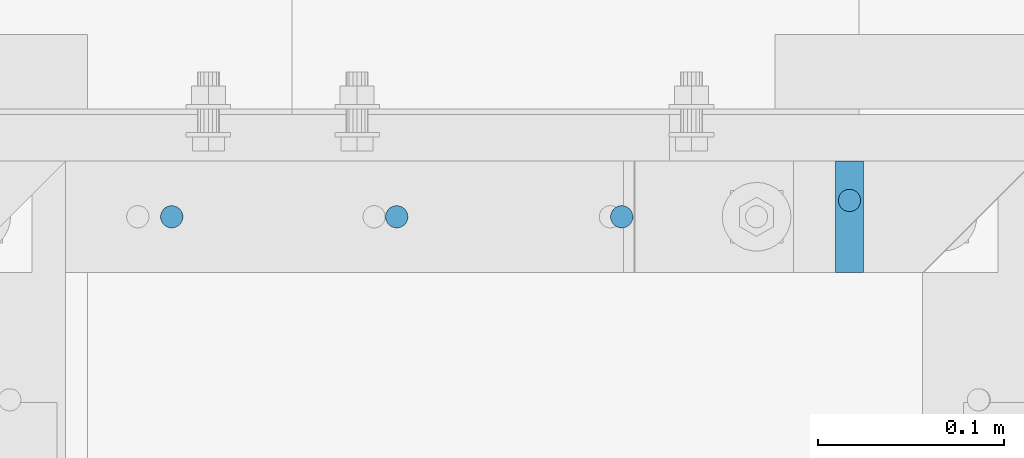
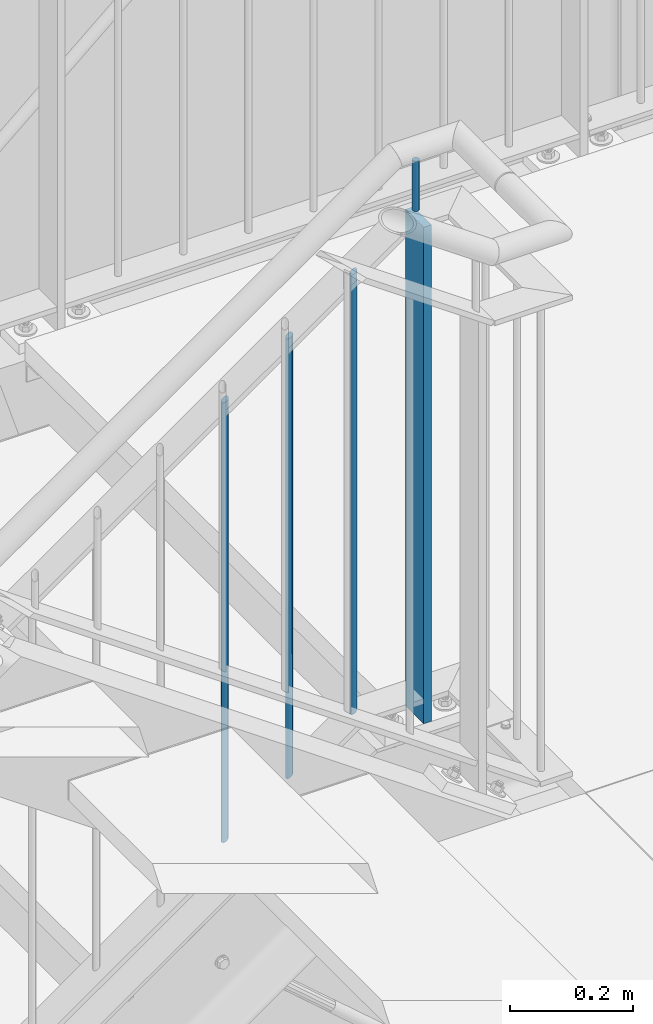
# One storey, part 93 of 821: 5 columns.
"""IFC2X3 building model written with IfcOpenShell, lengths in millimetres."""

from ifc_helpers import new_model, entity, si_unit, converted_unit, frame, origin, origin_with_axes, origin_2d, place, context, project, spatial, rectangle, circle, extrude, clip, halfspace, material, element, save


model = new_model("IFC2X3")

# Units and contexts
model_context = context("Model", 3, precision=1e-09, world=origin_with_axes())
ifc_project = project(units=[si_unit("LENGTHUNIT", "METRE", prefix="MILLI"), si_unit("AREAUNIT", "SQUARE_METRE"), si_unit("VOLUMEUNIT", "CUBIC_METRE"), converted_unit("PLANEANGLEUNIT", "DEGREE", entity("IfcPlaneAngleMeasure", 0.01745329), si_unit("PLANEANGLEUNIT", "RADIAN"), dimensions=[0, 0, 0, 0, 0, 0, 0])], contexts=[model_context])

# Site, building, storey
site_placement = place(None, origin_with_axes())
site = spatial("IfcSite", under=ifc_project, at=site_placement, Name="Cnopf'sche Kinderklinik", CompositionType="ELEMENT")
building_placement = place(site_placement, origin_with_axes())
building = spatial("IfcBuilding", under=site, at=building_placement, Name="Struktur 1", CompositionType="ELEMENT")
storey_placement = place(building_placement, origin_with_axes())
storey = spatial("IfcBuildingStorey", under=building, at=storey_placement, Name="Default Storey", CompositionType="ELEMENT", Elevation=0.0)

# Columns
ifc_material = material(Name="S235JR")
column_1_placement = place(None, frame((7616.713902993, 6091.736971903, 6714.618028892), z_axis=(0.0, 0.0, 1.0), x_axis=(1.0, 0.0, 0.0)))
element("IfcColumn", 1, at=column_1_placement, inside=storey, material=ifc_material, Name="Railing_Post_Landing#3", ObjectType="Railing_Post_Landing#3", context=model_context, shape_type="Clipping", body=[
    clip(clip(extrude(rectangle(XDim=15.0, YDim=60.0, at=origin_2d()), origin(), (0.0, 0.0, -1.0), 1070.646584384), halfspace(frame((-7616.713902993, -6091.736971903, -1019.722292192), z_axis=(0.0, 0.0, 1.0), x_axis=(1.0, 0.0, 0.0)), True)), halfspace(frame((-7616.713902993, -6091.736971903, -30.924292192), z_axis=(0.0, 0.0, -1.0), x_axis=(-1.0, 0.0, 0.0)), True)),
])
column_2_placement = place(None, frame((7251.964958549, 6091.736971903, 6458.818289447), z_axis=(0.0, 0.0, 1.0), x_axis=(1.0, 0.0, 0.0)))
element("IfcColumn", 2, at=column_2_placement, inside=storey, material=ifc_material, Name="Railing_Picket_Stair#18", ObjectType="Railing_Picket_Stair#18", context=model_context, shape_type="Clipping", body=[
    clip(clip(extrude(circle(Radius=6.0, at=origin_2d()), origin(), (0.0, 0.0, -1.0), 897.037988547), halfspace(frame((-7887.151292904, -6091.736971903, -5555.328369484), z_axis=(0.575128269, 0.0, -0.818063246), x_axis=(0.0, 1.0, 0.0)), True)), halfspace(frame((-7474.864125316, -6091.736971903, -6141.766206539), z_axis=(-0.575128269, 0.0, 0.818063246), x_axis=(0.0, -1.0, 0.0)), True)),
])
column_3_placement = place(None, frame((7373.049430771, 6091.736971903, 6543.945085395), z_axis=(0.0, 0.0, 1.0), x_axis=(1.0, 0.0, 0.0)))
element("IfcColumn", 3, at=column_3_placement, inside=storey, material=ifc_material, Name="Railing_Picket_Stair#19", ObjectType="Railing_Picket_Stair#19", context=model_context, shape_type="Clipping", body=[
    clip(clip(extrude(circle(Radius=6.0, at=origin_2d()), origin(), (0.0, 0.0, -1.0), 897.037988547), halfspace(frame((-8008.235765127, -6091.736971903, -5640.455165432), z_axis=(0.575128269, 0.0, -0.818063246), x_axis=(0.0, 1.0, 0.0)), True)), halfspace(frame((-7595.948597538, -6091.736971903, -6226.893002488), z_axis=(-0.575128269, 0.0, 0.818063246), x_axis=(0.0, -1.0, 0.0)), True)),
])
column_4_placement = place(None, frame((7494.133902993, 6091.736971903, 6629.071881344), z_axis=(0.0, 0.0, 1.0), x_axis=(1.0, 0.0, 0.0)))
element("IfcColumn", 4, at=column_4_placement, inside=storey, material=ifc_material, Name="Railing_Picket_Stair#20", ObjectType="Railing_Picket_Stair#20", context=model_context, shape_type="Clipping", body=[
    clip(clip(extrude(circle(Radius=6.0, at=origin_2d()), origin(), (0.0, 0.0, -1.0), 897.037988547), halfspace(frame((-8129.320237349, -6091.736971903, -5725.581961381), z_axis=(0.575128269, 0.0, -0.818063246), x_axis=(0.0, 1.0, 0.0)), True)), halfspace(frame((-7717.03306976, -6091.736971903, -6312.019798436), z_axis=(-0.575128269, 0.0, 0.818063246), x_axis=(0.0, -1.0, 0.0)), True)),
])
column_5_placement = place(None, frame((7616.713902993, 6100.536971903, 6802.180018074), z_axis=(0.0, 0.0, 1.0), x_axis=(0.0, -1.0, 0.0)))
element("IfcColumn", 5, at=column_5_placement, inside=storey, material=ifc_material, Name="Bar#3", ObjectType="Bar#3", context=model_context, shape_type="Clipping", body=[
    clip(clip(extrude(circle(Radius=6.0, at=origin_2d()), origin(), (0.0, 0.0, -1.0), 116.970562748), halfspace(frame((6100.536971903, -7616.713902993, -8.486281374), z_axis=(0.0, 0.0, -1.0), x_axis=(0.0, -1.0, 0.0)), True)), halfspace(frame((6100.536971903, -7616.713902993, -108.484281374), z_axis=(0.0, 0.0, 1.0), x_axis=(0.0, 1.0, 0.0)), True)),
])

save(model, "model.ifc")
